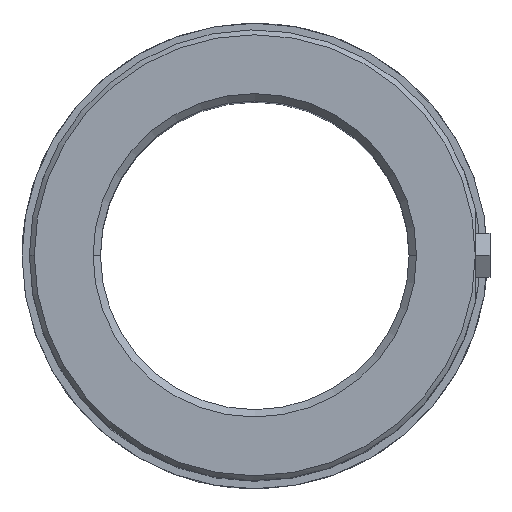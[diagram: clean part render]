
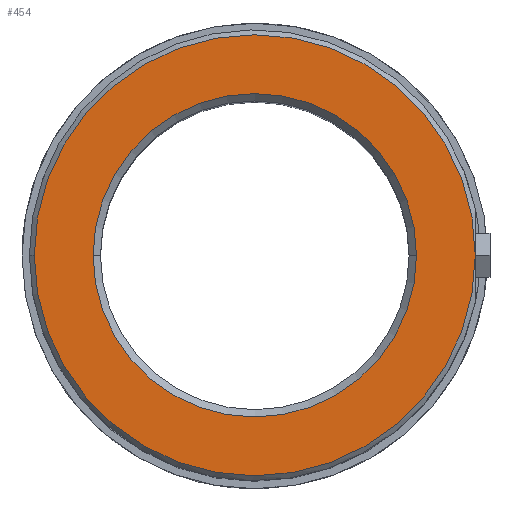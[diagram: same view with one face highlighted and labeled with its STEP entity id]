
A CAD part, top view. The second image highlights one B-rep face of the part: STEP entity #454.
In plain terms, the highlighted planar face has unit normal (0, 0, 1).
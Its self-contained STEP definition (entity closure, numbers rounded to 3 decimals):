
#336=CARTESIAN_POINT('Axis2P3D Location',(0.,0.,90.)) ;
#340=CARTESIAN_POINT('Vertex',(33.,0.,90.)) ;
#342=CARTESIAN_POINT('Vertex',(-33.,0.,90.)) ;
#398=CARTESIAN_POINT('Axis2P3D Location',(0.,0.,90.)) ;
#427=CARTESIAN_POINT('Axis2P3D Location',(33.,0.,90.)) ;
#432=CARTESIAN_POINT('Axis2P3D Location',(0.,0.,90.)) ;
#436=CARTESIAN_POINT('Vertex',(45.,0.,90.)) ;
#438=CARTESIAN_POINT('Vertex',(-45.,0.,90.)) ;
#441=CARTESIAN_POINT('Axis2P3D Location',(0.,0.,90.)) ;
#337=DIRECTION('Axis2P3D Direction',(0.,-0.,1.)) ;
#399=DIRECTION('Axis2P3D Direction',(0.,-0.,1.)) ;
#428=DIRECTION('Axis2P3D Direction',(0.,-0.,1.)) ;
#429=DIRECTION('Axis2P3D XDirection',(1.,0.,0.)) ;
#433=DIRECTION('Axis2P3D Direction',(0.,-0.,1.)) ;
#442=DIRECTION('Axis2P3D Direction',(0.,-0.,1.)) ;
#338=AXIS2_PLACEMENT_3D('Circle Axis2P3D',#336,#337,$) ;
#400=AXIS2_PLACEMENT_3D('Circle Axis2P3D',#398,#399,$) ;
#430=AXIS2_PLACEMENT_3D('Plane Axis2P3D',#427,#428,#429) ;
#434=AXIS2_PLACEMENT_3D('Circle Axis2P3D',#432,#433,$) ;
#443=AXIS2_PLACEMENT_3D('Circle Axis2P3D',#441,#442,$) ;
#447=ORIENTED_EDGE('',*,*,#440,.T.) ;
#448=ORIENTED_EDGE('',*,*,#445,.T.) ;
#451=ORIENTED_EDGE('',*,*,#402,.F.) ;
#452=ORIENTED_EDGE('',*,*,#344,.F.) ;
#453=FACE_BOUND('',#450,.T.) ;
#454=ADVANCED_FACE('742-63',(#449,#453),#431,.T.) ;
#339=CIRCLE('generated circle',#338,33.) ;
#401=CIRCLE('generated circle',#400,33.) ;
#435=CIRCLE('generated circle',#434,45.) ;
#444=CIRCLE('generated circle',#443,45.) ;
#344=EDGE_CURVE('',#341,#343,#339,.T.) ;
#402=EDGE_CURVE('',#343,#341,#401,.T.) ;
#440=EDGE_CURVE('',#437,#439,#435,.T.) ;
#445=EDGE_CURVE('',#439,#437,#444,.T.) ;
#446=EDGE_LOOP('',(#447,#448)) ;
#450=EDGE_LOOP('',(#451,#452)) ;
#449=FACE_OUTER_BOUND('',#446,.T.) ;
#431=PLANE('Plane',#430) ;
#341=VERTEX_POINT('',#340) ;
#343=VERTEX_POINT('',#342) ;
#437=VERTEX_POINT('',#436) ;
#439=VERTEX_POINT('',#438) ;
